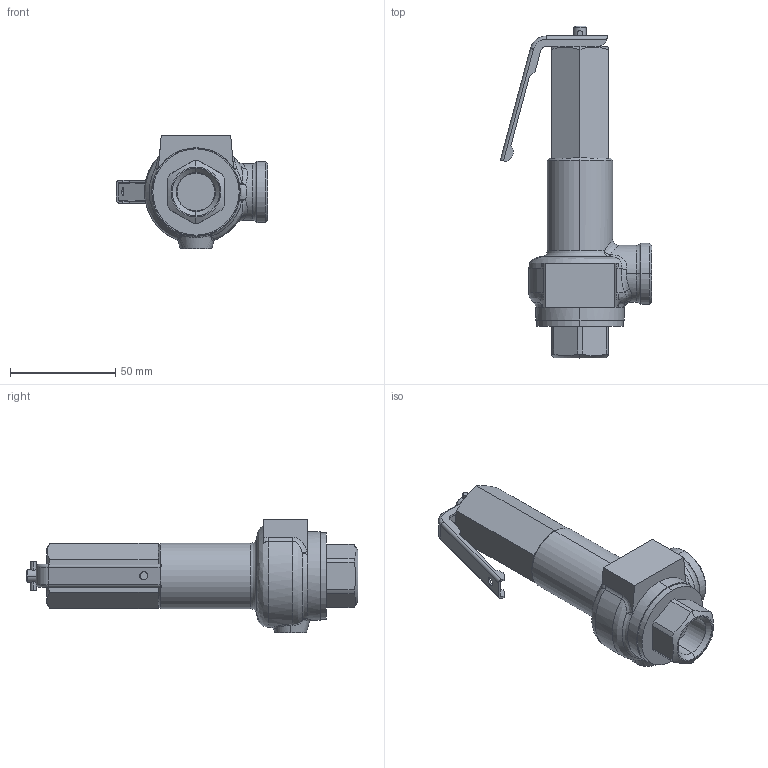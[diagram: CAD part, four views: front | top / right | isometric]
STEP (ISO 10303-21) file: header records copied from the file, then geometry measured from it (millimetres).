
FILE_DESCRIPTION( (''), '2;1');
FILE_NAME ('PC1276.14284.AL-140ML 15A_30859.stp','2025-12-05T09:02:32',(''),(''),'spGate 20.6.3 (****-****-****-****)','','');
FILE_SCHEMA (('AUTOMOTIVE_DESIGN'));
Length unit declared in the file: millimetre
Products named in the file (3): Assembly; AL-12 Lever; AL-140ML 15A(Non-Lever)
Assembly tree (2 placements, depth 2):
  Assembly
    AL-12 Lever
    AL-140ML 15A(Non-Lever)
Bounding box: 71.78 x 157.75 x 54 mm (x, y, z)
Volume: 140206.2 mm3; surface area: 25264.9 mm2
Topology: 2 solids, 2 shells, 174 faces, 418 edges, 256 vertices
Faces by surface type: plane 61, bspline 56, cylinder 51, sphere 6
Entity records: 10368 total; most frequent: CARTESIAN_POINT 3170, ORIENTED_EDGE 836, DIRECTION 736, COLOUR_RGB 594, PRESENTATION_STYLE_ASSIGNMENT 594, STYLED_ITEM 594, EDGE_CURVE 418, DRAUGHTING_PRE_DEFINED_CURVE_FONT 418
